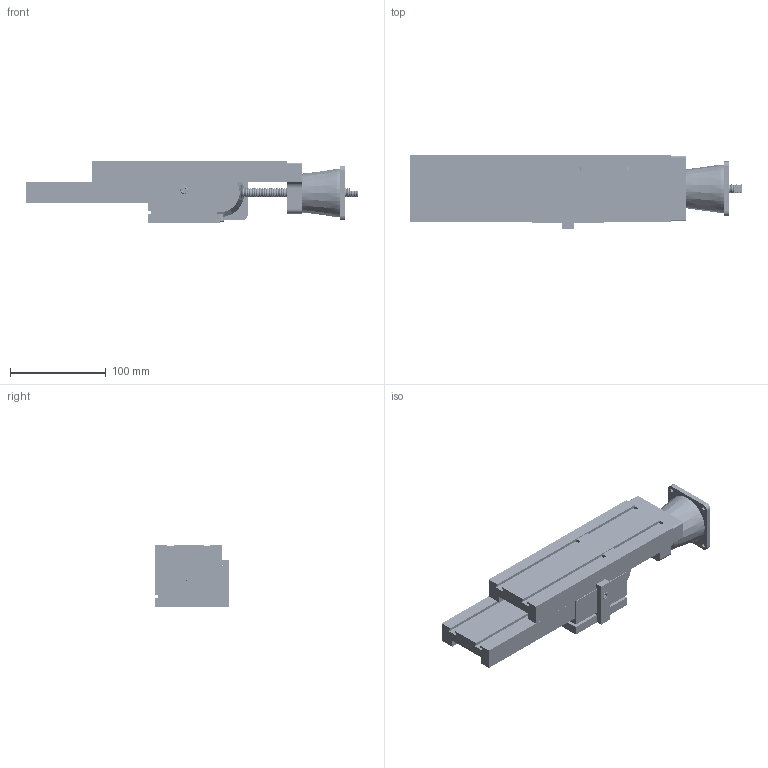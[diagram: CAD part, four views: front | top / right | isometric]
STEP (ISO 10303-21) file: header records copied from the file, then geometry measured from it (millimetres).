
FILE_DESCRIPTION( ( 'Unknown' ), '1' );
FILE_NAME( 'C:/Users/dragon/Desktop/65901/iges step/6552 BLS CNC ready.stp', 'Unknown', ( 'Unknown' ), ( 'Unknown' ), 'XStep 1.0', 'Unknown', ' ' );
FILE_SCHEMA( ( 'CONFIG_CONTROL_DESIGN' ) );
Length unit declared in the file: millimetre
Products named in the file (12): Assem1; 67101 ND; 65901 no details; ball leadscrew -8 in ; 58511; 58508 R-1; 59161; 65502; 65501-8; 40310; 40340; 67111
Bounding box: 347.29 x 77.38 x 64.21 mm (x, y, z)
Volume: 1269996 mm3; surface area: 244805.8 mm2
Topology: 29 solids, 29 shells, 2636 faces, 6947 edges, 4429 vertices
Faces by surface type: cylinder 1669, cone 587, plane 354, bspline 26
Full cylindrical faces by diameter (mm): 3.468 x8, 4.039 x4, 4.826 x2, 4.851 x8, 5.258 x8, 6.096 x2, 8.128 x2, 20.828 x2, 50.8 x2
Entity records: 44006 total; most frequent: CARTESIAN_POINT 26643, ORIENTED_EDGE 3606, DIRECTION 2990, EDGE_CURVE 1803, VERTEX_POINT 1262, AXIS2_PLACEMENT_3D 1158, EDGE_LOOP 1040, FACE_OUTER_BOUND 819
